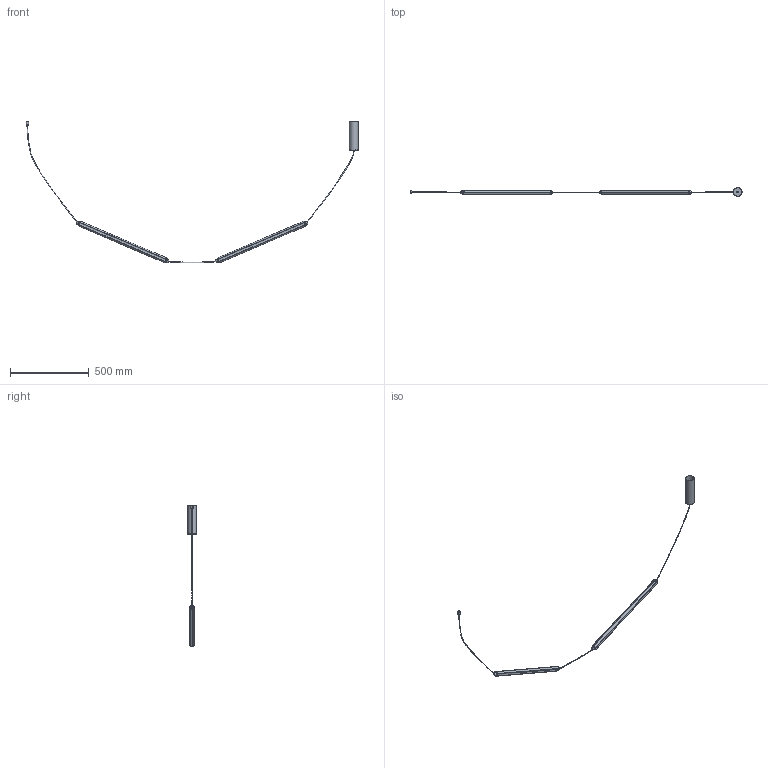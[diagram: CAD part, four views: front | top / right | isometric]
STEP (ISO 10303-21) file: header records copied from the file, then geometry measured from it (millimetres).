
FILE_DESCRIPTION(/* description */ (''),/* implementation_level */ '2;1');
FILE_NAME(/* name */ '64632-111_3d',/* time_stamp */ '2026-05-26T09:24:27+02:00',/* author */ (''),/* organization */ (''),/* preprocessor_version */ 'ST-DEVELOPER v19.2',/* originating_system */ 'Rhino 8.30',/* authorisation */ '');
FILE_SCHEMA (('CONFIG_CONTROL_DESIGN'));
Length unit declared in the file: millimetre
Products named in the file (1): Document
Bounding box: 2107.4 x 55 x 901.35 mm (x, y, z)
Volume: 490909.5 mm3; surface area: 286027.2 mm2
Topology: 9 solids, 14 shells, 217 faces, 600 edges, 384 vertices
Faces by surface type: cylinder 120, plane 81, bspline 16
Entity records: 11116 total; most frequent: CARTESIAN_POINT 6086, ORIENTED_EDGE 1172, DIRECTION 653, EDGE_CURVE 592, AXIS2_PLACEMENT_3D 427, VERTEX_POINT 384, B_SPLINE_CURVE_WITH_KNOTS 341, EDGE_LOOP 241
